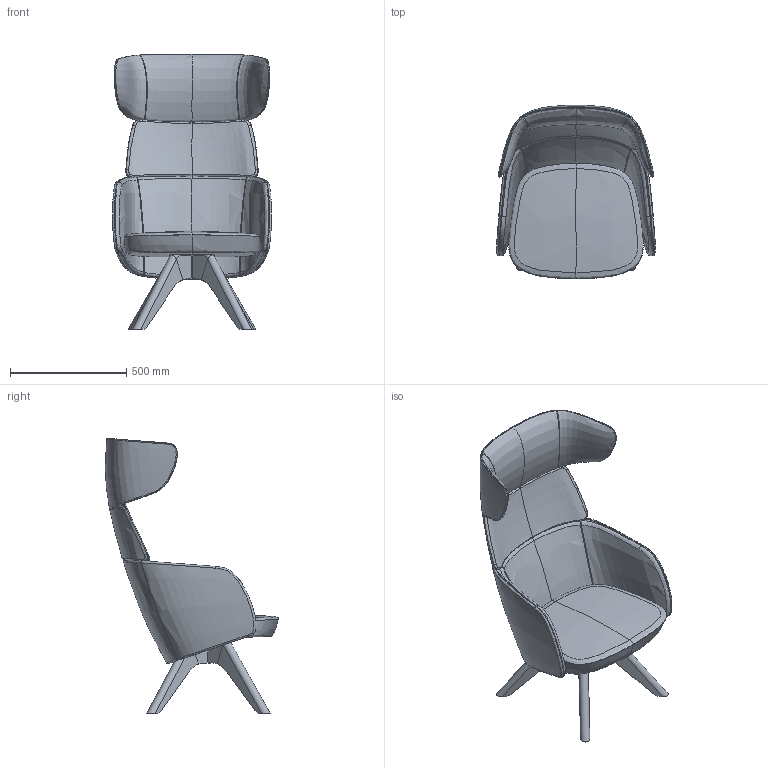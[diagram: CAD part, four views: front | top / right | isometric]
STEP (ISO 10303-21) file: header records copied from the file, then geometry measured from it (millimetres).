
FILE_DESCRIPTION(/* description */ (''),/* implementation_level */ '2;1');
FILE_NAME(/* name */ 'Winx WX 886-16',/* time_stamp */ '2021-03-30T00:50:44+02:00',/* author */ (''),/* organization */ (''),/* preprocessor_version */ 'ST-DEVELOPER v16.5',/* originating_system */ '',/* authorisation */ '');
FILE_SCHEMA (('CONFIG_CONTROL_DESIGN'));
Length unit declared in the file: millimetre
Products named in the file (1): Document
Bounding box: 682.71 x 744.15 x 1183.05 mm (x, y, z)
Volume: 65954295.1 mm3; surface area: 3048629.7 mm2
Topology: 5 solids, 11 shells, 242 faces, 538 edges, 315 vertices
Faces by surface type: bspline 150, plane 63, cylinder 29
Entity records: 27058 total; most frequent: CARTESIAN_POINT 23493, ORIENTED_EDGE 1036, EDGE_CURVE 535, B_SPLINE_CURVE_WITH_KNOTS 438, VERTEX_POINT 309, ADVANCED_FACE 242, FACE_OUTER_BOUND 242, EDGE_LOOP 242
